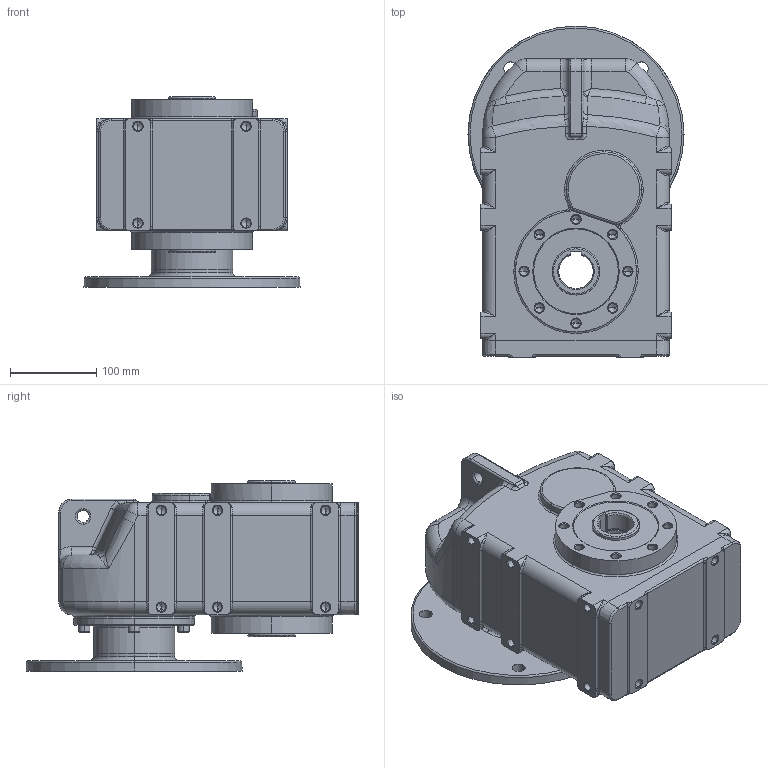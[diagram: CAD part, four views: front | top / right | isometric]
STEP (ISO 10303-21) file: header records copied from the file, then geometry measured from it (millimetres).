
FILE_DESCRIPTION (( 'STEP AP214' ), '1' );
FILE_NAME ('tnc32-f215-ap100.STEP', '2009-09-23T06:36:24', ( '' ), ( '' ), 'SwSTEP 2.0', 'SolidWorks 2003240', '' );
FILE_SCHEMA (( 'AUTOMOTIVE_DESIGN' ));
Length unit declared in the file: millimetre
Products named in the file (4): Priruba d80 MTC52A_180-215-250; Skøíò TNC3_Skøíò TNC32 AP100; N021143_Šroub s vnitøním šestihranem DIN 912 - M6 x 20; tnc32-f215-ap100
Assembly tree (8 placements, depth 2):
  tnc32-f215-ap100
    N021143_Šroub s vnitøním šestihranem DIN 912 - M6 x 20  x6
    Priruba d80 MTC52A_180-215-250
    Skøíò TNC3_Skøíò TNC32 AP100
Bounding box: 250 x 384 x 220 mm (x, y, z)
Volume: 9996598.1 mm3; surface area: 494325.5 mm2
Topology: 8 solids, 8 shells, 920 faces, 2090 edges, 1152 vertices
Faces by surface type: cylinder 281, cone 259, plane 171, torus 145, bspline 60, sphere 4
Entity records: 84254 total; most frequent: CARTESIAN_POINT 65734, DIRECTION 4001, ORIENTED_EDGE 3468, EDGE_CURVE 1734, AXIS2_PLACEMENT_3D 1664, VERTEX_POINT 1022, CIRCLE 923, EDGE_LOOP 888
